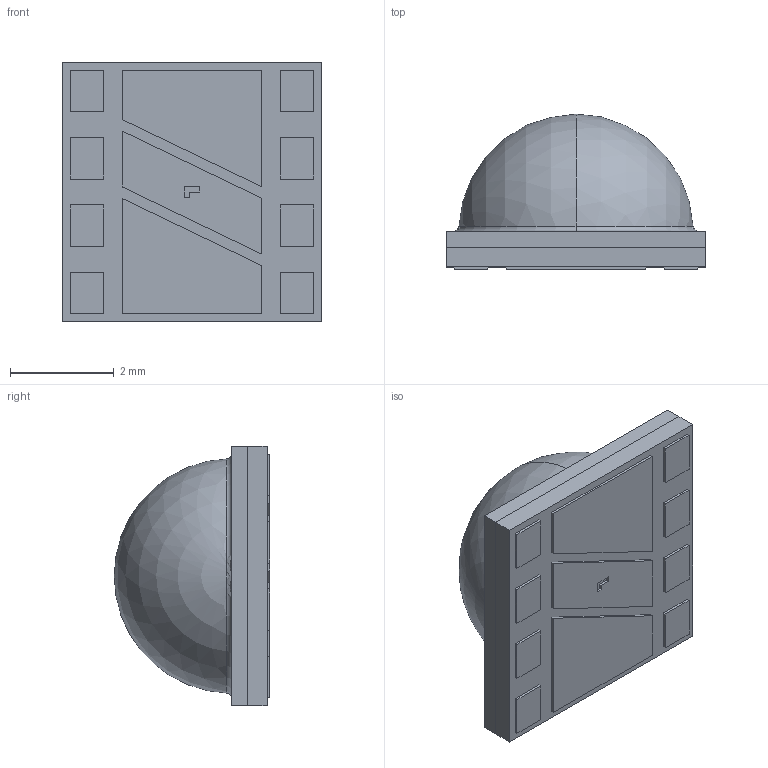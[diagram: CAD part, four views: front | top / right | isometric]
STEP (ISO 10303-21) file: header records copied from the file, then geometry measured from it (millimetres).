
FILE_DESCRIPTION (( 'STEP AP203' ), '1' );
FILE_NAME ('HP(HP50.2).STEP', '2024-01-19T06:46:20', ( '' ), ( '' ), 'SwSTEP 2.0', 'SolidWorks 2016', '' );
FILE_SCHEMA (( 'CONFIG_CONTROL_DESIGN' ));
Length unit declared in the file: millimetre
Products named in the file (1): HP(HP50.2)
Bounding box: 5 x 3 x 5 mm (x, y, z)
Volume: 42.2 mm3; surface area: 131.8 mm2
Topology: 2 solids, 2 shells, 78 faces, 182 edges, 121 vertices
Faces by surface type: plane 74, torus 2, sphere 2
Entity records: 2261 total; most frequent: CARTESIAN_POINT 382, ORIENTED_EDGE 364, DIRECTION 348, EDGE_CURVE 182, LINE 174, VECTOR 174, VERTEX_POINT 121, EDGE_LOOP 91
